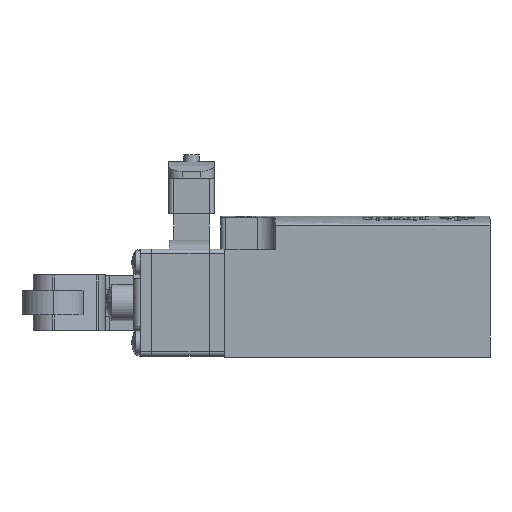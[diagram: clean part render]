
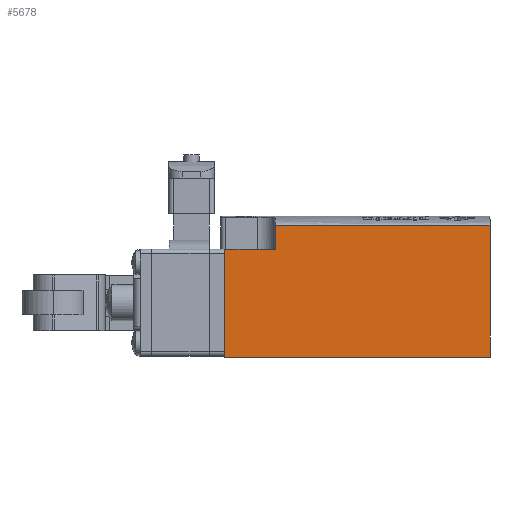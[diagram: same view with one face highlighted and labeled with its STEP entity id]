
A CAD part, left-side view. The second image highlights one B-rep face of the part: STEP entity #5678.
In plain terms, the highlighted planar face has unit normal (-1, 0, 0).
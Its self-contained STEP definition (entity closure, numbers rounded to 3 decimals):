
#250 = CARTESIAN_POINT ( 'NONE',  ( -15.6, 16.7, 17.4 ) ) ;
#739 = ORIENTED_EDGE ( 'NONE', *, *, #12071, .T. ) ;
#897 = VERTEX_POINT ( 'NONE', #2305 ) ;
#935 = DIRECTION ( 'NONE',  ( 0., 0., -1. ) ) ;
#1064 = VECTOR ( 'NONE', #2126, 1000. ) ;
#1434 = DIRECTION ( 'NONE',  ( 1., 0., 0. ) ) ;
#1442 = CARTESIAN_POINT ( 'NONE',  ( -15.6, -31.5, -12.2 ) ) ;
#1961 = ORIENTED_EDGE ( 'NONE', *, *, #9079, .F. ) ;
#2126 = DIRECTION ( 'NONE',  ( 0., -1., 0. ) ) ;
#2305 = CARTESIAN_POINT ( 'NONE',  ( -15.6, 16.7, 12. ) ) ;
#2517 = DIRECTION ( 'NONE',  ( 0., 0., -1. ) ) ;
#2866 = ORIENTED_EDGE ( 'NONE', *, *, #18766, .F. ) ;
#3108 = VERTEX_POINT ( 'NONE', #17877 ) ;
#3267 = LINE ( 'NONE', #17963, #17057 ) ;
#3279 = VERTEX_POINT ( 'NONE', #11386 ) ;
#3771 = VERTEX_POINT ( 'NONE', #11460 ) ;
#3819 = CARTESIAN_POINT ( 'NONE',  ( -15.6, 28., 12. ) ) ;
#4277 = CARTESIAN_POINT ( 'NONE',  ( -15.6, -31.5, 19.4 ) ) ;
#4283 = CARTESIAN_POINT ( 'NONE',  ( -15.6, 16.7, 17.4 ) ) ;
#5082 = ORIENTED_EDGE ( 'NONE', *, *, #10455, .T. ) ;
#5678 = ADVANCED_FACE ( 'NONE', ( #9047 ), #7667, .F. ) ;
#5992 = CARTESIAN_POINT ( 'NONE',  ( -15.6, 0.633, 17.4 ) ) ;
#7667 = PLANE ( 'NONE',  #8160 ) ;
#7780 = DIRECTION ( 'NONE',  ( 0., -1., 0. ) ) ;
#8160 = AXIS2_PLACEMENT_3D ( 'NONE', #4277, #1434, #12429 ) ;
#8261 = ORIENTED_EDGE ( 'NONE', *, *, #19150, .F. ) ;
#8666 = CARTESIAN_POINT ( 'NONE',  ( -15.6, 28., 19.4 ) ) ;
#8820 = VECTOR ( 'NONE', #935, 1000. ) ;
#9047 = FACE_OUTER_BOUND ( 'NONE', #12182, .T. ) ;
#9079 = EDGE_CURVE ( 'NONE', #897, #17193, #3267, .T. ) ;
#9260 = LINE ( 'NONE', #1442, #16991 ) ;
#9429 = B_SPLINE_CURVE_WITH_KNOTS ( 'NONE', 3,
 ( #15819, #10851, #5992, #4283 ),
 .UNSPECIFIED., .F., .F.,
 ( 4, 4 ),
 ( 0., 1. ),
 .UNSPECIFIED. ) ;
#9627 = ORIENTED_EDGE ( 'NONE', *, *, #20123, .T. ) ;
#10388 = LINE ( 'NONE', #3819, #1064 ) ;
#10455 = EDGE_CURVE ( 'NONE', #12614, #17193, #9429, .T. ) ;
#10558 = LINE ( 'NONE', #17003, #18299 ) ;
#10851 = CARTESIAN_POINT ( 'NONE',  ( -15.6, -15.433, 17.4 ) ) ;
#11386 = CARTESIAN_POINT ( 'NONE',  ( -15.6, -31.5, -12.2 ) ) ;
#11460 = CARTESIAN_POINT ( 'NONE',  ( -15.6, 28., -12.2 ) ) ;
#12071 = EDGE_CURVE ( 'NONE', #3771, #3279, #9260, .T. ) ;
#12182 = EDGE_LOOP ( 'NONE', ( #8261, #5082, #1961, #2866, #9627, #739 ) ) ;
#12429 = DIRECTION ( 'NONE',  ( 0., 1., 0. ) ) ;
#12614 = VERTEX_POINT ( 'NONE', #19906 ) ;
#15819 = CARTESIAN_POINT ( 'NONE',  ( -15.6, -31.5, 17.4 ) ) ;
#16280 = DIRECTION ( 'NONE',  ( 0., 0., 1. ) ) ;
#16991 = VECTOR ( 'NONE', #7780, 1000. ) ;
#17003 = CARTESIAN_POINT ( 'NONE',  ( -15.6, -31.5, 19.4 ) ) ;
#17057 = VECTOR ( 'NONE', #16280, 1000. ) ;
#17193 = VERTEX_POINT ( 'NONE', #250 ) ;
#17877 = CARTESIAN_POINT ( 'NONE',  ( -15.6, 28., 12. ) ) ;
#17963 = CARTESIAN_POINT ( 'NONE',  ( -15.6, 16.7, 12. ) ) ;
#18299 = VECTOR ( 'NONE', #2517, 1000. ) ;
#18766 = EDGE_CURVE ( 'NONE', #3108, #897, #10388, .T. ) ;
#19150 = EDGE_CURVE ( 'NONE', #12614, #3279, #10558, .T. ) ;
#19906 = CARTESIAN_POINT ( 'NONE',  ( -15.6, -31.5, 17.4 ) ) ;
#20123 = EDGE_CURVE ( 'NONE', #3108, #3771, #20293, .T. ) ;
#20293 = LINE ( 'NONE', #8666, #8820 ) ;
